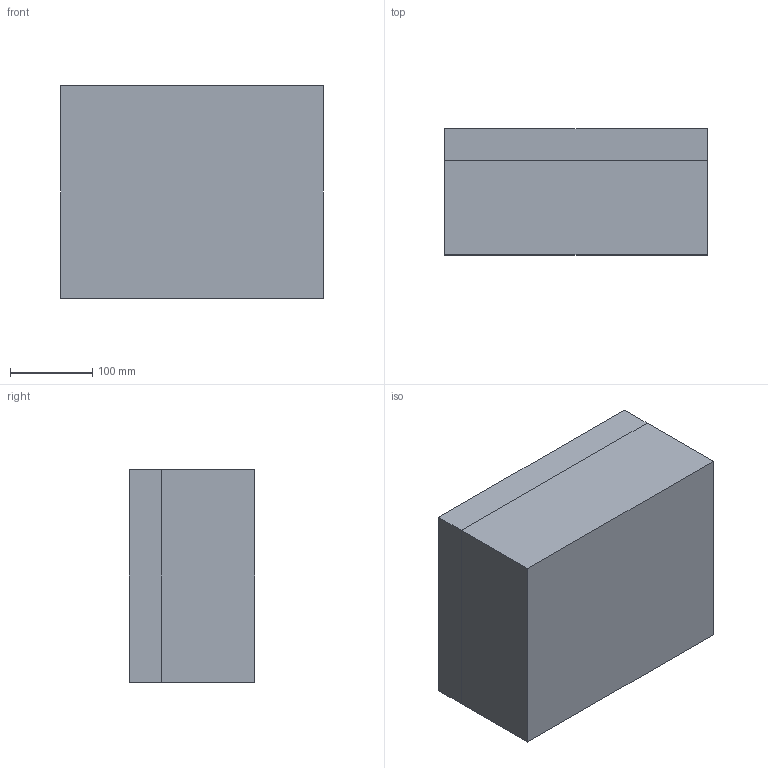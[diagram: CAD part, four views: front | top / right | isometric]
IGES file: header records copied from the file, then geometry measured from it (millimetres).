
Start section: SolidWorks IGES file using analytic representation for surfaces
Global section: file name: S:\Share\NANUK\Solidworks\Dummies\For Line Drawings\IGES\905.IGS; native system: SolidWorks 2008; preprocessor: SolidWorks 2008; author: adallaire; date: 090121.160540; units: inch
Bounding box: 318.52 x 152.47 x 257.46 mm (x, y, z)
Surface area: 605049.6 mm2 (no closed solid volume)
Topology: 0 solids, 0 shells, 561 faces, 7862 edges, 7849 vertices
Faces by surface type: bspline 419, revolution 142
